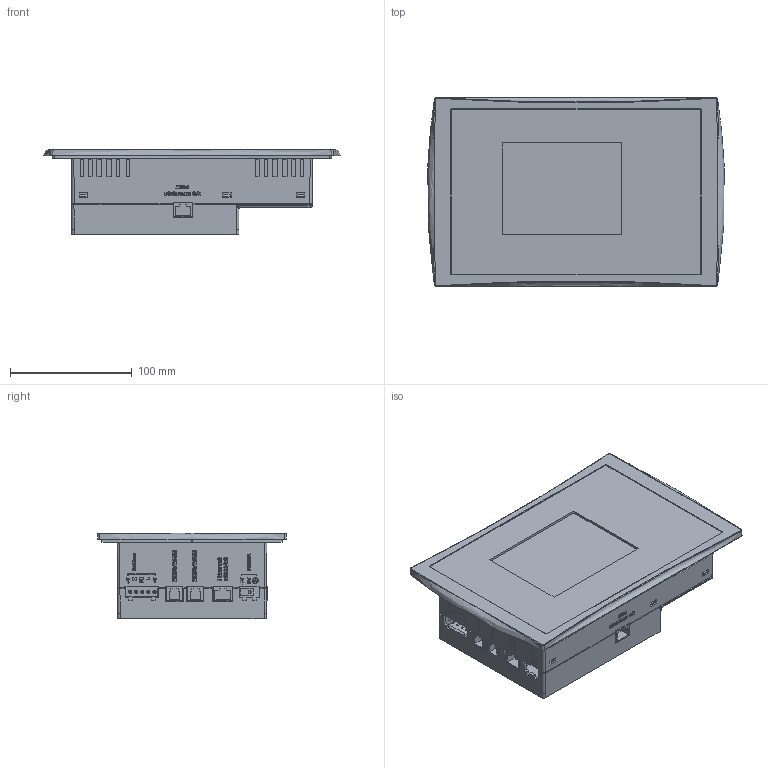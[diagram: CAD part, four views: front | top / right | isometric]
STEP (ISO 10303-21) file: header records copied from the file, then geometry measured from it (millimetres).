
FILE_DESCRIPTION (( 'STEP AP203' ), '1' );
FILE_NAME ('V280.STEP', '2011-10-25T14:25:49', ( 'unitronics' ), ( 'unitronics' ), 'SwSTEP 2.0', 'SolidWorks 2011', '' );
FILE_SCHEMA (( 'CONFIG_CONTROL_DESIGN' ));
Products named in the file (2): V280; Part17^V290-new
Assembly tree (1 placements, depth 2):
  V280
    Part17^V290-new
Bounding box: 243.02 x 155 x 70.42 mm (x, y, z)
Volume: 1471536 mm3; surface area: 218526.2 mm2
Topology: 3 solids, 3 shells, 2349 faces, 6518 edges, 4302 vertices
Faces by surface type: plane 1503, bspline 654, cylinder 127, cone 39, torus 22, sphere 4
Entity records: 101657 total; most frequent: CARTESIAN_POINT 45786, ORIENTED_EDGE 13028, DIRECTION 8782, EDGE_CURVE 6514, VECTOR 4820, LINE 4820, VERTEX_POINT 4302, EDGE_LOOP 2592
